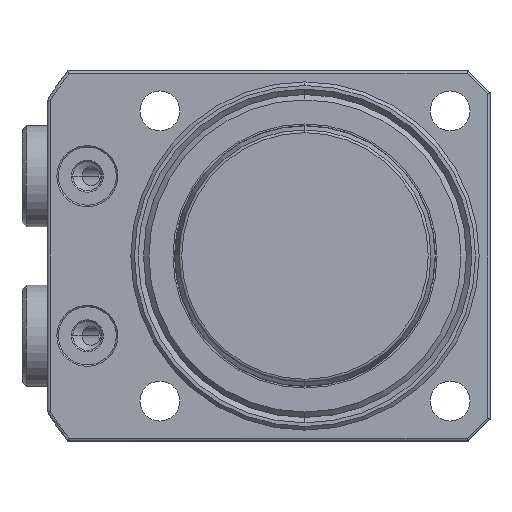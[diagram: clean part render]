
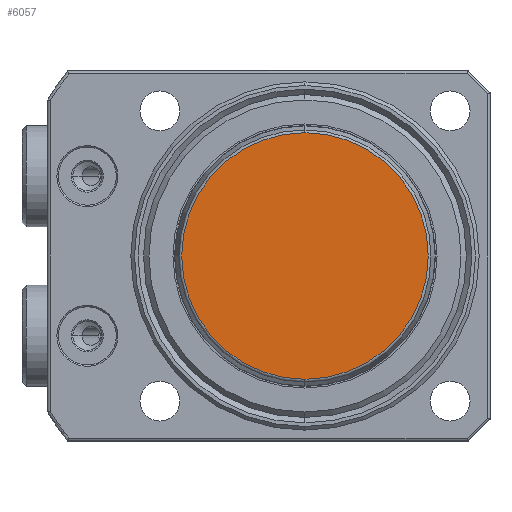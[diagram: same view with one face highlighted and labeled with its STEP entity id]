
A CAD part, front view. The second image highlights one B-rep face of the part: STEP entity #6057.
In plain terms, the highlighted planar face has unit normal (0, -1, 0).
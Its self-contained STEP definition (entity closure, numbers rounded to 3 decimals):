
#127 = VERTEX_POINT ( 'NONE', #7362 ) ;
#367 = CIRCLE ( 'NONE', #3969, 16.992 ) ;
#630 = PLANE ( 'NONE',  #6567 ) ;
#849 = FACE_OUTER_BOUND ( 'NONE', #1926, .T. ) ;
#920 = DIRECTION ( 'NONE',  ( 0., -1., 0. ) ) ;
#1235 = DIRECTION ( 'NONE',  ( 0., 1., 0. ) ) ;
#1609 = ORIENTED_EDGE ( 'NONE', *, *, #7549, .T. ) ;
#1926 = EDGE_LOOP ( 'NONE', ( #6819, #1609 ) ) ;
#2396 = VERTEX_POINT ( 'NONE', #6762 ) ;
#2715 = CIRCLE ( 'NONE', #6813, 16.992 ) ;
#2865 = CARTESIAN_POINT ( 'NONE',  ( 0., -2., 0. ) ) ;
#3466 = DIRECTION ( 'NONE',  ( 0., 0., 1. ) ) ;
#3969 = AXIS2_PLACEMENT_3D ( 'NONE', #4508, #920, #5110 ) ;
#4508 = CARTESIAN_POINT ( 'NONE',  ( 0., -2., 0. ) ) ;
#5110 = DIRECTION ( 'NONE',  ( 0., 0., 1. ) ) ;
#5419 = DIRECTION ( 'NONE',  ( 0., 0., 1. ) ) ;
#5992 = CARTESIAN_POINT ( 'NONE',  ( 17.272, -2., 0. ) ) ;
#6057 = ADVANCED_FACE ( 'NONE', ( #849 ), #630, .F. ) ;
#6322 = EDGE_CURVE ( 'NONE', #127, #2396, #2715, .T. ) ;
#6567 = AXIS2_PLACEMENT_3D ( 'NONE', #5992, #1235, #5419 ) ;
#6762 = CARTESIAN_POINT ( 'NONE',  ( 0., -2., -16.992 ) ) ;
#6813 = AXIS2_PLACEMENT_3D ( 'NONE', #2865, #7067, #3466 ) ;
#6819 = ORIENTED_EDGE ( 'NONE', *, *, #6322, .T. ) ;
#7067 = DIRECTION ( 'NONE',  ( 0., -1., 0. ) ) ;
#7362 = CARTESIAN_POINT ( 'NONE',  ( 0., -2., 16.992 ) ) ;
#7549 = EDGE_CURVE ( 'NONE', #2396, #127, #367, .T. ) ;
